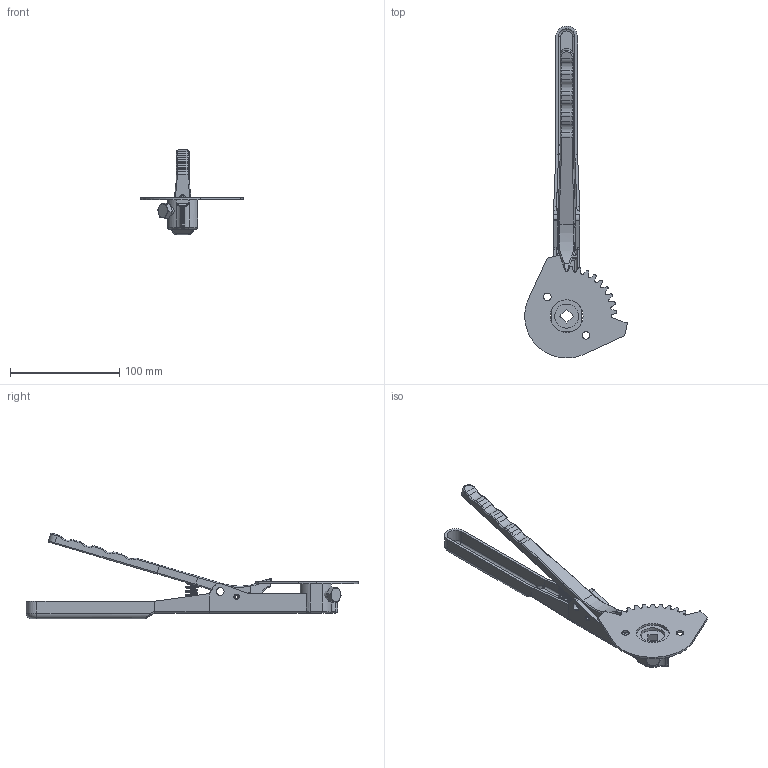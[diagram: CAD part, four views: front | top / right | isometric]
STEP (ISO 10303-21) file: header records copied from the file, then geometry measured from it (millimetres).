
FILE_DESCRIPTION (( 'STEP AP203' ), '1' );
FILE_NAME ('2-3※忒梟.STEP', '2026-03-04T05:33:13', ( '' ), ( '' ), 'SwSTEP 2.0', 'SolidWorks 2018', '' );
FILE_SCHEMA (( 'CONFIG_CONTROL_DESIGN' ));
Products named in the file (7): 新型玛钢手柄齿盘(不锈钢)外圆77大角度-DN50-DN80; 新型玛钢手柄主手柄(长)-DN50-DN80-立方9-9004; spring pin slotted heavy duty1 gb_GB_PARALLEL_PINS_TYPE6 5X24; 鞠褒芛蹟邡 M8X16; 5.spring - 9005; 2-3※忒梟; 新型玛钢手柄副手柄(长)-DN50-DN80-9004
Assembly tree (6 placements, depth 2):
  2-3※忒梟
    新型玛钢手柄齿盘(不锈钢)外圆77大角度-DN50-DN80
    新型玛钢手柄副手柄(长)-DN50-DN80-9004
    新型玛钢手柄主手柄(长)-DN50-DN80-立方9-9004
    spring pin slotted heavy duty1 gb_GB_PARALLEL_PINS_TYPE6 5X24
    鞠褒芛蹟邡 M8X16
    5.spring - 9005
Bounding box: 94.11 x 304.58 x 78.36 mm (x, y, z)
Volume: 75371.2 mm3; surface area: 56060.5 mm2
Topology: 6 solids, 6 shells, 454 faces, 1146 edges, 701 vertices
Faces by surface type: cylinder 213, plane 119, torus 73, bspline 28, cone 14, sphere 7
Entity records: 294872 total; most frequent: CARTESIAN_POINT 283342, DIRECTION 2347, ORIENTED_EDGE 2274, EDGE_CURVE 1137, AXIS2_PLACEMENT_3D 923, VERTEX_POINT 699, VECTOR 501, LINE 501
